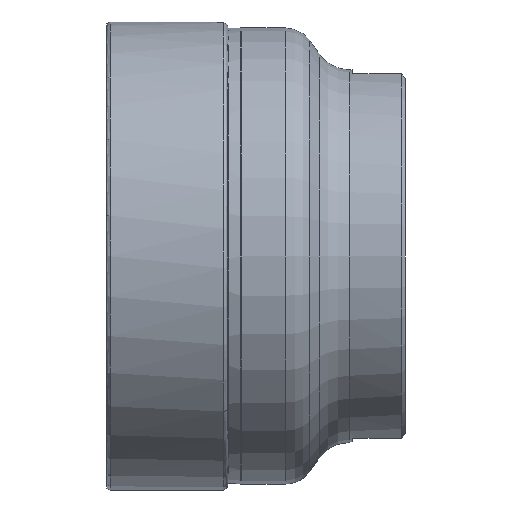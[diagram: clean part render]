
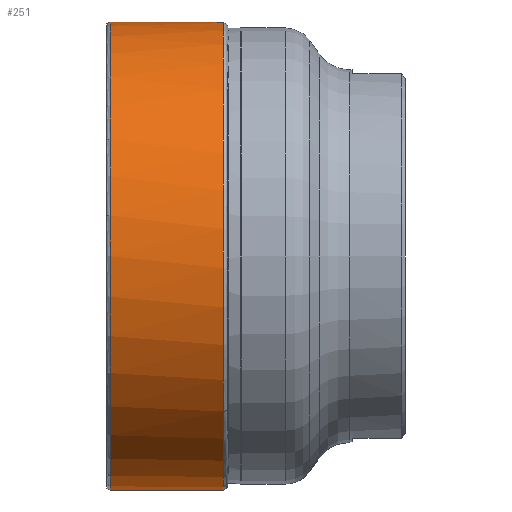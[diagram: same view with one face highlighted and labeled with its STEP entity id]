
A CAD part, front view. The second image highlights one B-rep face of the part: STEP entity #251.
In plain terms, the highlighted cylindrical face has radius 31.395 mm (diameter 62.79 mm), a full revolution.
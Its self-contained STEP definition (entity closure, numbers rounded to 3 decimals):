
#166=CYLINDRICAL_SURFACE('',#1118,31.395);
#251=ADVANCED_FACE('',(#413,#414),#166,.T.);
#413=FACE_BOUND('',#513,.T.);
#414=FACE_BOUND('',#514,.T.);
#513=EDGE_LOOP('',(#637));
#514=EDGE_LOOP('',(#638));
#637=ORIENTED_EDGE('',*,*,#941,.F.);
#638=ORIENTED_EDGE('',*,*,#940,.T.);
#851=VERTEX_POINT('',#1629);
#852=VERTEX_POINT('',#1642);
#940=EDGE_CURVE('',#851,#851,#1052,.T.);
#941=EDGE_CURVE('',#852,#852,#1053,.T.);
#1052=CIRCLE('',#1116,31.395);
#1053=CIRCLE('',#1117,31.395);
#1116=AXIS2_PLACEMENT_3D('',#1628,#1259,#1260);
#1117=AXIS2_PLACEMENT_3D('',#1641,#1262,#1263);
#1118=AXIS2_PLACEMENT_3D('',#1643,#1264,#1265);
#1259=DIRECTION('',(1.,0.,0.));
#1260=DIRECTION('',(0.,0.,-1.));
#1262=DIRECTION('',(1.,0.,0.));
#1263=DIRECTION('',(0.,0.,-1.));
#1264=DIRECTION('',(-1.,0.,0.));
#1265=DIRECTION('',(0.,0.,1.));
#1628=CARTESIAN_POINT('',(0.444,0.,0.));
#1629=CARTESIAN_POINT('',(0.444,0.,-31.395));
#1641=CARTESIAN_POINT('',(15.609,0.,0.));
#1642=CARTESIAN_POINT('',(15.609,0.,-31.395));
#1643=CARTESIAN_POINT('',(15.,0.,0.));
